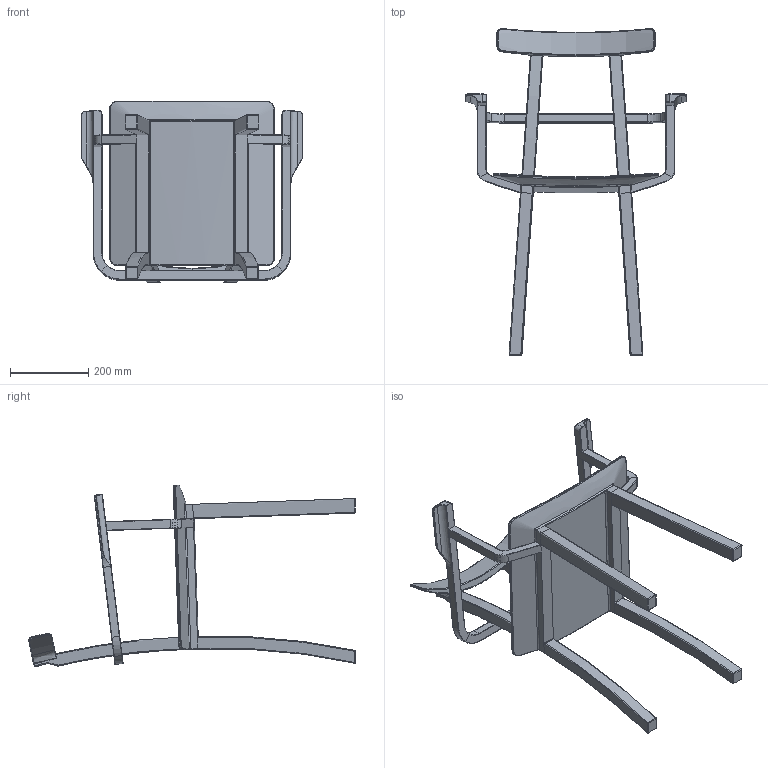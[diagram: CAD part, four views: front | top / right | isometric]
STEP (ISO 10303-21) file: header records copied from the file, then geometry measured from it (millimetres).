
FILE_DESCRIPTION (( 'STEP AP203' ), '1' );
FILE_NAME ('NERVOSA CHAIR WITH ARMREST.STEP', '2023-03-21T13:28:58', ( '' ), ( '' ), 'SwSTEP 2.0', 'SolidWorks 2023', '' );
FILE_SCHEMA (( 'CONFIG_CONTROL_DESIGN' ));
Length unit declared in the file: millimetre
Products named in the file (2): NERVOSA CHAIR WITH ARMREST; Group1^NERVOSA CHAIR WITH ARMREST
Assembly tree (1 placements, depth 2):
  NERVOSA CHAIR WITH ARMREST
    Group1^NERVOSA CHAIR WITH ARMREST
Bounding box: 565 x 833.82 x 463.7 mm (x, y, z)
Volume: 7983817.8 mm3; surface area: 940128.2 mm2
Topology: 2 solids, 2 shells, 548 faces, 1374 edges, 811 vertices
Faces by surface type: cylinder 225, plane 123, torus 89, bspline 80, sphere 31
Entity records: 23793 total; most frequent: CARTESIAN_POINT 11310, ORIENTED_EDGE 2694, DIRECTION 2541, EDGE_CURVE 1347, AXIS2_PLACEMENT_3D 1027, VERTEX_POINT 799, CIRCLE 555, FACE_OUTER_BOUND 548
